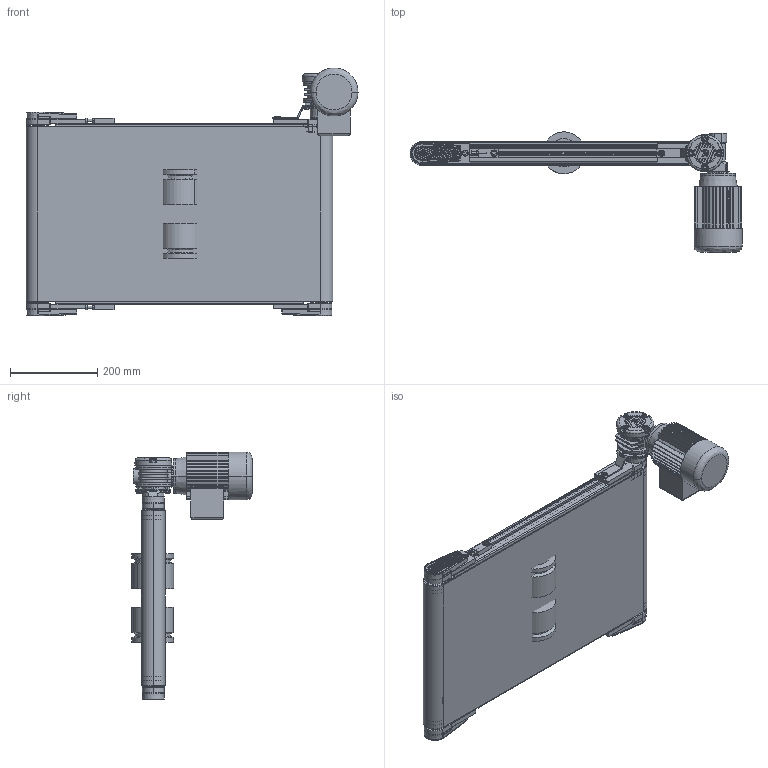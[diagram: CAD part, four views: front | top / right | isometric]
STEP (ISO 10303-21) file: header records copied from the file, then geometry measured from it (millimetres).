
FILE_DESCRIPTION (( 'STEP AP203' ), '1' );
FILE_NAME ('NASTRO_RETTILINEO_TAPPETO.step', '2026-05-06T10:01:12', ( 'Utente Windows' ), ( '' ), 'SwSTEP 2.0', 'SolidWorks 2024', '' );
FILE_SCHEMA (( 'CONFIG_CONTROL_DESIGN' ));
Length unit declared in the file: millimetre
Products named in the file (37): 084.803.018; 084.802.071; 084.807.013_084.807.003; BLOCCO_TRAINO_50_CORTA; 084.302.000 DADI ALUSIC 13x13-1_084.302.007; RULLO_50_RINVIO_CINGHIE; 084.802.062; 084.303.001; BLOCCO_RINVIO_50_CORTA; VITI TSEI UNI 5933_M4x10 UNI 5933; 449.014.106; TELAIO_50_CINGHIE_Default<A macchina>; BLOCCO_BRACCIO_CH03P_VF30P; LAMIERA_STANDARD; VITI TCEI UNI 5931_M6x12 UNI 5931; VITI TCEI UNI 5931_M4x10 UNI 5931; GUIDA_CINGHIA_Z_95; 084.301.000 VITI ALUSIC_084.301.003; 084.802.017_084.802.017; 084.302.000 DADI ALUSIC 13x13-1_084.302.004; VITI TE UNI 5739_M6x16 UNI 5739; 084.302.000 DADI ALUSIC 13x13_084.302.004; VITI TSEI UNI 5933_M5x12 UNI 5933; 084.802.008; VITI TCEI UNI 5931_M4x25 UNI 5931; 084.802.061; NASTRO_RETTILINEO_TAPPETO; BLOCCO_TRAINO_50_CORTA_30_DX; DADO ESAGONALE M30 AUTOBLOCCANTE UNI 7473_M30 UNI 7473; CH03P_DX; VITE_RONDELLA_M8X20; 084.802.065_Default<A macchina>; TAPPETO_STANDARD_CINGHIE; RULLO_50_TRAINO_CINGHIE_30_DX; VITE_DADO_M5X12; 084.808.012; 084.807.004_084.807.004
Assembly tree (70 placements, depth 4):
  NASTRO_RETTILINEO_TAPPETO
    TAPPETO_STANDARD_CINGHIE
    TELAIO_50_CINGHIE_Default<A macchina>
    LAMIERA_STANDARD
    RULLO_50_TRAINO_CINGHIE_30_DX
    BLOCCO_TRAINO_50_CORTA_30_DX
      084.807.013_084.807.003
      084.802.017_084.802.017
      084.301.000 VITI ALUSIC_084.301.003  x2
      084.302.000 DADI ALUSIC 13x13-1_084.302.004  x2
      BLOCCO_BRACCIO_CH03P_VF30P
        084.808.012
        084.802.062
        084.802.061
        VITI TE UNI 5739_M6x16 UNI 5739  x4
        084.803.018
        VITI TCEI UNI 5931_M6x12 UNI 5931  x4
      084.802.065_Default<A macchina>
      VITI TCEI UNI 5931_M4x25 UNI 5931  x2
    BLOCCO_TRAINO_50_CORTA
      084.807.004_084.807.004
      084.802.017_084.802.017
      084.301.000 VITI ALUSIC_084.301.003  x2
      084.302.000 DADI ALUSIC 13x13-1_084.302.004  x2
      VITI TSEI UNI 5933_M4x10 UNI 5933  x2
      084.802.071
    RULLO_50_RINVIO_CINGHIE
    BLOCCO_RINVIO_50_CORTA  x2
      084.807.004_084.807.004
      084.802.017_084.802.017
      084.802.008
      084.301.000 VITI ALUSIC_084.301.003
      084.302.000 DADI ALUSIC 13x13_084.302.004
      VITI TCEI UNI 5931_M4x10 UNI 5931
      084.802.071
    GUIDA_CINGHIA_Z_95  x2
      449.014.106
      DADO ESAGONALE M30 AUTOBLOCCANTE UNI 7473_M30 UNI 7473
    VITE_RONDELLA_M8X20  x3
      084.303.001
      084.301.000 VITI ALUSIC_084.301.003
    VITE_DADO_M5X12  x6
      084.302.000 DADI ALUSIC 13x13-1_084.302.007
      VITI TSEI UNI 5933_M5x12 UNI 5933
    CH03P_DX
Bounding box: 762 x 276.19 x 569 mm (x, y, z)
Volume: 8397775.8 mm3; surface area: 3579287.6 mm2
Topology: 102 solids, 108 shells, 5501 faces, 14137 edges, 8993 vertices
Faces by surface type: plane 2782, cylinder 1312, bspline 575, cone 531, torus 263, sphere 38
Entity records: 119332 total; most frequent: CARTESIAN_POINT 35096, ORIENTED_EDGE 17166, DIRECTION 15919, EDGE_CURVE 8583, AXIS2_PLACEMENT_3D 5538, VERTEX_POINT 5485, LINE 4843, VECTOR 4843
